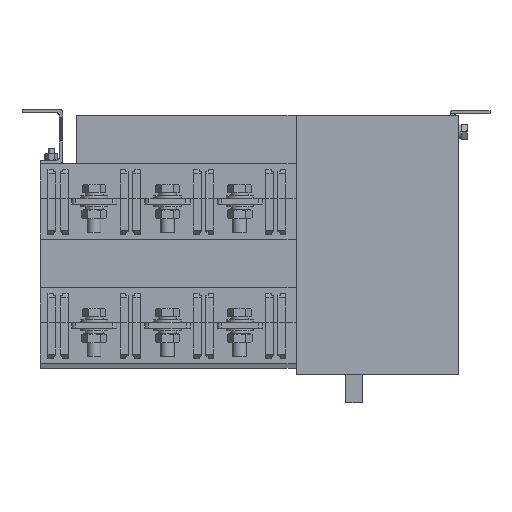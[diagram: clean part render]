
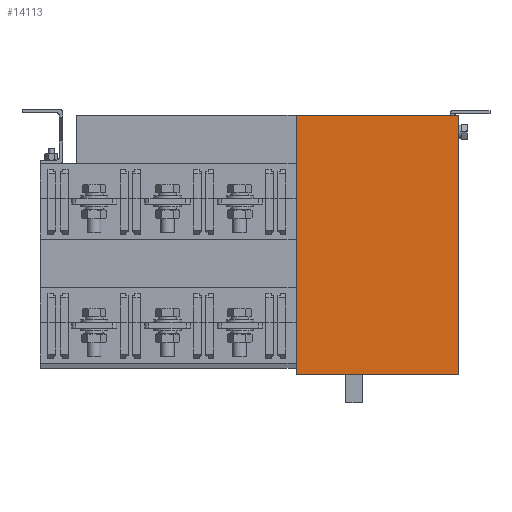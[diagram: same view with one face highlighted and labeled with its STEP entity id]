
A CAD part, front view. The second image highlights one B-rep face of the part: STEP entity #14113.
In plain terms, the highlighted planar face has unit normal (0, -1, 0).
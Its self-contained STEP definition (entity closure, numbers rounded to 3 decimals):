
#13904=DIRECTION('',(0.,0.,1.));
#13905=VECTOR('',#13904,230.);
#13906=CARTESIAN_POINT('',(-72.,0.,-115.));
#13907=LINE('',#13906,#13905);
#13908=DIRECTION('',(1.,0.,0.));
#13909=VECTOR('',#13908,144.);
#13910=CARTESIAN_POINT('',(-72.,0.,115.));
#13911=LINE('',#13910,#13909);
#13912=DIRECTION('',(0.,0.,-1.));
#13913=VECTOR('',#13912,230.);
#13914=CARTESIAN_POINT('',(72.,0.,115.));
#13915=LINE('',#13914,#13913);
#13916=DIRECTION('',(-1.,0.,0.));
#13917=VECTOR('',#13916,144.);
#13918=CARTESIAN_POINT('',(72.,0.,-115.));
#13919=LINE('',#13918,#13917);
#14050=CARTESIAN_POINT('',(-72.,0.,-115.));
#14051=CARTESIAN_POINT('',(-72.,0.,115.));
#14052=VERTEX_POINT('',#14050);
#14053=VERTEX_POINT('',#14051);
#14054=CARTESIAN_POINT('',(72.,0.,115.));
#14055=VERTEX_POINT('',#14054);
#14056=CARTESIAN_POINT('',(72.,0.,-115.));
#14057=VERTEX_POINT('',#14056);
#14098=CARTESIAN_POINT('',(0.,0.,0.));
#14099=DIRECTION('',(0.,1.,0.));
#14100=DIRECTION('',(1.,0.,0.));
#14101=AXIS2_PLACEMENT_3D('',#14098,#14099,#14100);
#14102=PLANE('',#14101);
#14104=ORIENTED_EDGE('',*,*,#14103,.T.);
#14106=ORIENTED_EDGE('',*,*,#14105,.T.);
#14108=ORIENTED_EDGE('',*,*,#14107,.T.);
#14110=ORIENTED_EDGE('',*,*,#14109,.T.);
#14111=EDGE_LOOP('',(#14104,#14106,#14108,#14110));
#14112=FACE_OUTER_BOUND('',#14111,.F.);
#14113=ADVANCED_FACE('',(#14112),#14102,.F.);
#14103=EDGE_CURVE('',#14052,#14053,#13907,.T.);
#14105=EDGE_CURVE('',#14053,#14055,#13911,.T.);
#14107=EDGE_CURVE('',#14055,#14057,#13915,.T.);
#14109=EDGE_CURVE('',#14057,#14052,#13919,.T.);
